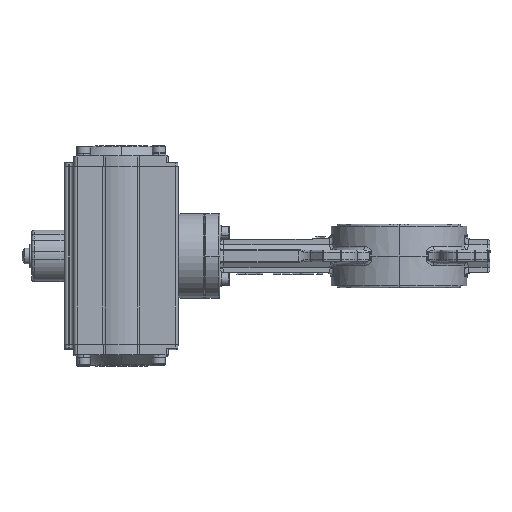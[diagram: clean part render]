
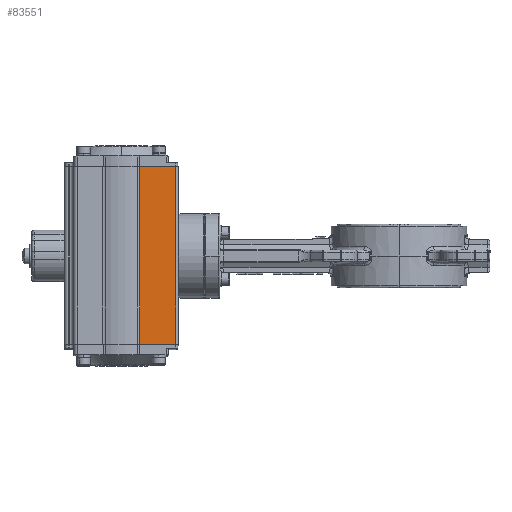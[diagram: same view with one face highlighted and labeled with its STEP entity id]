
A CAD part, left-side view. The second image highlights one B-rep face of the part: STEP entity #83551.
In plain terms, the highlighted planar face has unit normal (-1, 0, 0.017).
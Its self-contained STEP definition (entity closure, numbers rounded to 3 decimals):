
#4978 = DIRECTION ( 'NONE',  ( -0.017, 0., -1. ) ) ;
#6145 = FACE_OUTER_BOUND ( 'NONE', #45188, .T. ) ;
#10068 = LINE ( 'NONE', #48901, #71289 ) ;
#12314 = CARTESIAN_POINT ( 'NONE',  ( -34.649, 199.902, -67.926 ) ) ;
#13928 = CARTESIAN_POINT ( 'NONE',  ( -32.342, 172., 69.055 ) ) ;
#17546 = EDGE_CURVE ( 'NONE', #37158, #90893, #10068, .T. ) ;
#19540 = PLANE ( 'NONE',  #65772 ) ;
#20673 = VECTOR ( 'NONE', #102324, 1000. ) ;
#21489 = VERTEX_POINT ( 'NONE', #112408 ) ;
#28217 = CARTESIAN_POINT ( 'NONE',  ( -32.342, 199.902, 69.055 ) ) ;
#30129 = ORIENTED_EDGE ( 'NONE', *, *, #112936, .T. ) ;
#30914 = DIRECTION ( 'NONE',  ( -0.017, 0., -1. ) ) ;
#33934 = CARTESIAN_POINT ( 'NONE',  ( -34.649, 214., -67.926 ) ) ;
#37158 = VERTEX_POINT ( 'NONE', #28217 ) ;
#39542 = DIRECTION ( 'NONE',  ( 0.017, 0., 1. ) ) ;
#42652 = LINE ( 'NONE', #100169, #112722 ) ;
#42740 = LINE ( 'NONE', #59615, #111459 ) ;
#45188 = EDGE_LOOP ( 'NONE', ( #30129, #96511, #68568, #73576 ) ) ;
#48901 = CARTESIAN_POINT ( 'NONE',  ( -34.649, 199.902, -67.926 ) ) ;
#59615 = CARTESIAN_POINT ( 'NONE',  ( -32.342, 214., 69.055 ) ) ;
#60122 = EDGE_CURVE ( 'NONE', #37158, #122781, #42740, .T. ) ;
#65772 = AXIS2_PLACEMENT_3D ( 'NONE', #76699, #77083, #39542 ) ;
#68568 = ORIENTED_EDGE ( 'NONE', *, *, #60122, .F. ) ;
#71289 = VECTOR ( 'NONE', #30914, 1000. ) ;
#73576 = ORIENTED_EDGE ( 'NONE', *, *, #17546, .T. ) ;
#76699 = CARTESIAN_POINT ( 'NONE',  ( -34.649, 200.819, -67.926 ) ) ;
#77083 = DIRECTION ( 'NONE',  ( -1., 0., 0.017 ) ) ;
#79282 = EDGE_CURVE ( 'NONE', #122781, #21489, #42652, .T. ) ;
#79618 = DIRECTION ( 'NONE',  ( 0., -1., 0. ) ) ;
#83551 = ADVANCED_FACE ( 'NONE', ( #6145 ), #19540, .T. ) ;
#90893 = VERTEX_POINT ( 'NONE', #12314 ) ;
#96511 = ORIENTED_EDGE ( 'NONE', *, *, #79282, .F. ) ;
#100169 = CARTESIAN_POINT ( 'NONE',  ( -29.334, 172., 247.623 ) ) ;
#102324 = DIRECTION ( 'NONE',  ( 0., -1., 0. ) ) ;
#105836 = LINE ( 'NONE', #33934, #20673 ) ;
#111459 = VECTOR ( 'NONE', #79618, 1000. ) ;
#112408 = CARTESIAN_POINT ( 'NONE',  ( -34.649, 172., -67.926 ) ) ;
#112722 = VECTOR ( 'NONE', #4978, 1000. ) ;
#112936 = EDGE_CURVE ( 'NONE', #90893, #21489, #105836, .T. ) ;
#122781 = VERTEX_POINT ( 'NONE', #13928 ) ;
